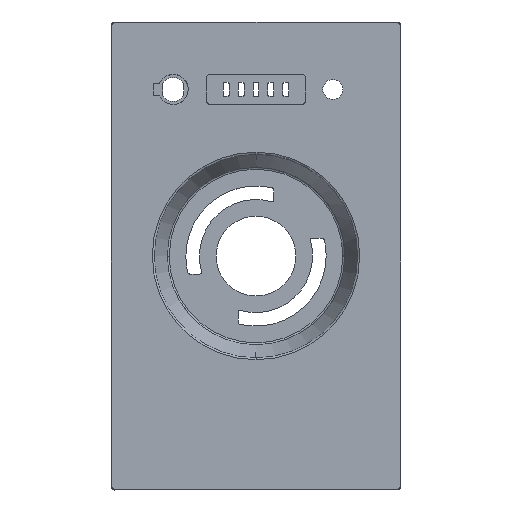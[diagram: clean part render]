
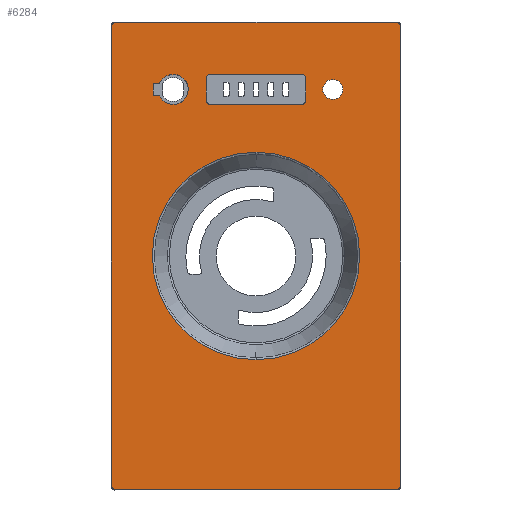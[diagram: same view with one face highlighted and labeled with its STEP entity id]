
A CAD part, top view. The second image highlights one B-rep face of the part: STEP entity #6284.
In plain terms, the highlighted planar face has unit normal (0, 0, 1).
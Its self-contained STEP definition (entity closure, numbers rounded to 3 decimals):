
#1=CARTESIAN_POINT('',(-70.85,-115.5,98.));
#2=DIRECTION('',(0.,0.,-1.));
#3=DIRECTION('',(0.,-1.,0.));
#4=AXIS2_PLACEMENT_3D('',#1,#2,#3);
#6=CARTESIAN_POINT('',(-70.85,115.5,98.));
#7=DIRECTION('',(0.,0.,-1.));
#8=DIRECTION('',(-1.,0.,0.));
#9=AXIS2_PLACEMENT_3D('',#6,#7,#8);
#11=CARTESIAN_POINT('',(70.85,115.5,98.));
#12=DIRECTION('',(0.,0.,-1.));
#13=DIRECTION('',(0.,1.,0.));
#14=AXIS2_PLACEMENT_3D('',#11,#12,#13);
#16=CARTESIAN_POINT('',(70.85,-115.5,98.));
#17=DIRECTION('',(0.,0.,-1.));
#18=DIRECTION('',(1.,0.,0.));
#19=AXIS2_PLACEMENT_3D('',#16,#17,#18);
#21=DIRECTION('',(1.,0.,0.));
#22=VECTOR('',#21,46.);
#23=CARTESIAN_POINT('',(-23.,76.,98.));
#24=LINE('',#23,#22);
#25=CARTESIAN_POINT('',(23.,78.,98.));
#26=DIRECTION('',(0.,0.,1.));
#27=DIRECTION('',(0.,-1.,0.));
#28=AXIS2_PLACEMENT_3D('',#25,#26,#27);
#30=DIRECTION('',(0.,1.,0.));
#31=VECTOR('',#30,11.);
#32=CARTESIAN_POINT('',(25.,78.,98.));
#33=LINE('',#32,#31);
#34=CARTESIAN_POINT('',(23.,89.,98.));
#35=DIRECTION('',(0.,0.,1.));
#36=DIRECTION('',(1.,0.,0.));
#37=AXIS2_PLACEMENT_3D('',#34,#35,#36);
#39=DIRECTION('',(-1.,0.,0.));
#40=VECTOR('',#39,46.);
#41=CARTESIAN_POINT('',(23.,91.,98.));
#42=LINE('',#41,#40);
#43=CARTESIAN_POINT('',(-23.,89.,98.));
#44=DIRECTION('',(0.,0.,1.));
#45=DIRECTION('',(0.,1.,0.));
#46=AXIS2_PLACEMENT_3D('',#43,#44,#45);
#48=DIRECTION('',(0.,-1.,0.));
#49=VECTOR('',#48,11.);
#50=CARTESIAN_POINT('',(-25.,89.,98.));
#51=LINE('',#50,#49);
#52=CARTESIAN_POINT('',(-23.,78.,98.));
#53=DIRECTION('',(0.,0.,1.));
#54=DIRECTION('',(-1.,0.,0.));
#55=AXIS2_PLACEMENT_3D('',#52,#53,#54);
#57=CARTESIAN_POINT('',(38.5,83.5,98.));
#58=DIRECTION('',(0.,0.,1.));
#59=DIRECTION('',(1.,0.,0.));
#60=AXIS2_PLACEMENT_3D('',#57,#58,#59);
#62=CARTESIAN_POINT('',(38.5,83.5,98.));
#63=DIRECTION('',(0.,0.,1.));
#64=DIRECTION('',(-1.,0.,0.));
#65=AXIS2_PLACEMENT_3D('',#62,#63,#64);
#67=CARTESIAN_POINT('',(-48.694,87.,98.));
#68=DIRECTION('',(0.,0.,-1.));
#69=DIRECTION('',(0.899,-0.437,0.));
#70=AXIS2_PLACEMENT_3D('',#67,#68,#69);
#72=DIRECTION('',(-1.,0.,0.));
#73=VECTOR('',#72,2.306);
#74=CARTESIAN_POINT('',(-48.694,86.5,98.));
#75=LINE('',#74,#73);
#76=CARTESIAN_POINT('',(-51.,86.,98.));
#77=DIRECTION('',(0.,0.,1.));
#78=DIRECTION('',(0.,1.,0.));
#79=AXIS2_PLACEMENT_3D('',#76,#77,#78);
#81=DIRECTION('',(0.,-1.,0.));
#82=VECTOR('',#81,5.);
#83=CARTESIAN_POINT('',(-51.5,86.,98.));
#84=LINE('',#83,#82);
#85=CARTESIAN_POINT('',(-51.,81.,98.));
#86=DIRECTION('',(0.,0.,1.));
#87=DIRECTION('',(-1.,0.,0.));
#88=AXIS2_PLACEMENT_3D('',#85,#86,#87);
#90=DIRECTION('',(1.,0.,0.));
#91=VECTOR('',#90,2.306);
#92=CARTESIAN_POINT('',(-51.,80.5,98.));
#93=LINE('',#92,#91);
#94=CARTESIAN_POINT('',(-48.694,80.,98.));
#95=DIRECTION('',(0.,0.,-1.));
#96=DIRECTION('',(0.,1.,0.));
#97=AXIS2_PLACEMENT_3D('',#94,#95,#96);
#99=CARTESIAN_POINT('',(-41.5,83.5,98.));
#100=DIRECTION('',(0.,0.,1.));
#101=DIRECTION('',(-0.899,-0.438,0.));
#102=AXIS2_PLACEMENT_3D('',#99,#100,#101);
#104=CARTESIAN_POINT('',(-41.5,83.5,98.));
#105=DIRECTION('',(0.,0.,1.));
#106=DIRECTION('',(1.,0.,0.));
#107=AXIS2_PLACEMENT_3D('',#104,#105,#106);
#109=CARTESIAN_POINT('',(-41.5,83.5,98.));
#110=DIRECTION('',(0.,0.,1.));
#111=DIRECTION('',(0.899,0.438,0.));
#112=AXIS2_PLACEMENT_3D('',#109,#110,#111);
#114=CARTESIAN_POINT('',(0.,0.,98.));
#115=DIRECTION('',(0.,0.,1.));
#116=DIRECTION('',(0.,1.,0.));
#117=AXIS2_PLACEMENT_3D('',#114,#115,#116);
#119=CARTESIAN_POINT('',(0.,0.,98.));
#120=DIRECTION('',(0.,0.,1.));
#121=DIRECTION('',(0.,-1.,0.));
#122=AXIS2_PLACEMENT_3D('',#119,#120,#121);
#124=DIRECTION('',(1.,0.,0.));
#125=VECTOR('',#124,141.7);
#126=CARTESIAN_POINT('',(-70.85,-116.95,98.));
#127=LINE('',#126,#125);
#147=DIRECTION('',(0.,1.,0.));
#148=VECTOR('',#147,231.);
#149=CARTESIAN_POINT('',(72.3,-115.5,98.));
#150=LINE('',#149,#148);
#170=DIRECTION('',(-1.,0.,0.));
#171=VECTOR('',#170,141.7);
#172=CARTESIAN_POINT('',(70.85,116.95,98.));
#173=LINE('',#172,#171);
#193=DIRECTION('',(0.,-1.,0.));
#194=VECTOR('',#193,231.);
#195=CARTESIAN_POINT('',(-72.3,115.5,98.));
#196=LINE('',#195,#194);
#4768=CARTESIAN_POINT('',(-70.85,-116.95,98.));
#4769=CARTESIAN_POINT('',(70.85,-116.95,98.));
#4770=VERTEX_POINT('',#4768);
#4771=VERTEX_POINT('',#4769);
#4772=CARTESIAN_POINT('',(-72.3,-115.5,98.));
#4773=VERTEX_POINT('',#4772);
#4774=CARTESIAN_POINT('',(-72.3,115.5,98.));
#4775=VERTEX_POINT('',#4774);
#4776=CARTESIAN_POINT('',(-70.85,116.95,98.));
#4777=VERTEX_POINT('',#4776);
#4778=CARTESIAN_POINT('',(70.85,116.95,98.));
#4779=VERTEX_POINT('',#4778);
#4780=CARTESIAN_POINT('',(72.3,115.5,98.));
#4781=VERTEX_POINT('',#4780);
#4782=CARTESIAN_POINT('',(72.3,-115.5,98.));
#4783=VERTEX_POINT('',#4782);
#4784=CARTESIAN_POINT('',(-23.,76.,98.));
#4785=CARTESIAN_POINT('',(23.,76.,98.));
#4786=VERTEX_POINT('',#4784);
#4787=VERTEX_POINT('',#4785);
#4788=CARTESIAN_POINT('',(25.,78.,98.));
#4789=VERTEX_POINT('',#4788);
#4790=CARTESIAN_POINT('',(25.,89.,98.));
#4791=VERTEX_POINT('',#4790);
#4792=CARTESIAN_POINT('',(23.,91.,98.));
#4793=VERTEX_POINT('',#4792);
#4794=CARTESIAN_POINT('',(-23.,91.,98.));
#4795=VERTEX_POINT('',#4794);
#4796=CARTESIAN_POINT('',(-25.,89.,98.));
#4797=VERTEX_POINT('',#4796);
#4798=CARTESIAN_POINT('',(-25.,78.,98.));
#4799=VERTEX_POINT('',#4798);
#4800=CARTESIAN_POINT('',(43.5,83.5,98.));
#4801=CARTESIAN_POINT('',(33.5,83.5,98.));
#4802=VERTEX_POINT('',#4800);
#4803=VERTEX_POINT('',#4801);
#4804=CARTESIAN_POINT('',(-48.244,86.781,98.));
#4805=CARTESIAN_POINT('',(-48.694,86.5,98.));
#4806=VERTEX_POINT('',#4804);
#4807=VERTEX_POINT('',#4805);
#4808=CARTESIAN_POINT('',(-51.,86.5,98.));
#4809=VERTEX_POINT('',#4808);
#4810=CARTESIAN_POINT('',(-51.5,86.,98.));
#4811=VERTEX_POINT('',#4810);
#4812=CARTESIAN_POINT('',(-51.5,81.,98.));
#4813=VERTEX_POINT('',#4812);
#4814=CARTESIAN_POINT('',(-51.,80.5,98.));
#4815=VERTEX_POINT('',#4814);
#4816=CARTESIAN_POINT('',(-48.694,80.5,98.));
#4817=VERTEX_POINT('',#4816);
#4818=CARTESIAN_POINT('',(-48.244,80.219,98.));
#4819=VERTEX_POINT('',#4818);
#4820=CARTESIAN_POINT('',(-34.,83.5,98.));
#4821=VERTEX_POINT('',#4820);
#4822=CARTESIAN_POINT('',(-34.756,86.781,98.));
#4823=VERTEX_POINT('',#4822);
#4824=CARTESIAN_POINT('',(0.,51.985,98.));
#4825=CARTESIAN_POINT('',(0.,-51.985,98.));
#4826=VERTEX_POINT('',#4824);
#4827=VERTEX_POINT('',#4825);
#6209=CARTESIAN_POINT('',(0.,0.,98.));
#6210=DIRECTION('',(0.,0.,1.));
#6211=DIRECTION('',(1.,0.,0.));
#6212=AXIS2_PLACEMENT_3D('',#6209,#6210,#6211);
#6213=PLANE('',#6212);
#6215=ORIENTED_EDGE('',*,*,#6214,.F.);
#6217=ORIENTED_EDGE('',*,*,#6216,.T.);
#6219=ORIENTED_EDGE('',*,*,#6218,.F.);
#6221=ORIENTED_EDGE('',*,*,#6220,.T.);
#6223=ORIENTED_EDGE('',*,*,#6222,.F.);
#6225=ORIENTED_EDGE('',*,*,#6224,.T.);
#6227=ORIENTED_EDGE('',*,*,#6226,.F.);
#6229=ORIENTED_EDGE('',*,*,#6228,.T.);
#6230=EDGE_LOOP('',(#6215,#6217,#6219,#6221,#6223,#6225,#6227,#6229));
#6231=FACE_OUTER_BOUND('',#6230,.F.);
#6233=ORIENTED_EDGE('',*,*,#6232,.T.);
#6235=ORIENTED_EDGE('',*,*,#6234,.T.);
#6237=ORIENTED_EDGE('',*,*,#6236,.T.);
#6239=ORIENTED_EDGE('',*,*,#6238,.T.);
#6241=ORIENTED_EDGE('',*,*,#6240,.T.);
#6243=ORIENTED_EDGE('',*,*,#6242,.T.);
#6245=ORIENTED_EDGE('',*,*,#6244,.T.);
#6247=ORIENTED_EDGE('',*,*,#6246,.T.);
#6248=EDGE_LOOP('',(#6233,#6235,#6237,#6239,#6241,#6243,#6245,#6247));
#6249=FACE_BOUND('',#6248,.F.);
#6251=ORIENTED_EDGE('',*,*,#6250,.T.);
#6253=ORIENTED_EDGE('',*,*,#6252,.T.);
#6254=EDGE_LOOP('',(#6251,#6253));
#6255=FACE_BOUND('',#6254,.F.);
#6257=ORIENTED_EDGE('',*,*,#6256,.T.);
#6259=ORIENTED_EDGE('',*,*,#6258,.T.);
#6261=ORIENTED_EDGE('',*,*,#6260,.T.);
#6263=ORIENTED_EDGE('',*,*,#6262,.T.);
#6265=ORIENTED_EDGE('',*,*,#6264,.T.);
#6267=ORIENTED_EDGE('',*,*,#6266,.T.);
#6269=ORIENTED_EDGE('',*,*,#6268,.T.);
#6271=ORIENTED_EDGE('',*,*,#6270,.T.);
#6273=ORIENTED_EDGE('',*,*,#6272,.T.);
#6275=ORIENTED_EDGE('',*,*,#6274,.T.);
#6276=EDGE_LOOP('',(#6257,#6259,#6261,#6263,#6265,#6267,#6269,#6271,#6273,
#6275));
#6277=FACE_BOUND('',#6276,.F.);
#6279=ORIENTED_EDGE('',*,*,#6278,.T.);
#6281=ORIENTED_EDGE('',*,*,#6280,.T.);
#6282=EDGE_LOOP('',(#6279,#6281));
#6283=FACE_BOUND('',#6282,.F.);
#6284=ADVANCED_FACE('',(#6231,#6249,#6255,#6277,#6283),#6213,.T.);
#5=CIRCLE('',#4,1.45);
#10=CIRCLE('',#9,1.45);
#15=CIRCLE('',#14,1.45);
#20=CIRCLE('',#19,1.45);
#29=CIRCLE('',#28,2.);
#38=CIRCLE('',#37,2.);
#47=CIRCLE('',#46,2.);
#56=CIRCLE('',#55,2.);
#61=CIRCLE('',#60,5.);
#66=CIRCLE('',#65,5.);
#71=CIRCLE('',#70,0.5);
#80=CIRCLE('',#79,0.5);
#89=CIRCLE('',#88,0.5);
#98=CIRCLE('',#97,0.5);
#103=CIRCLE('',#102,7.5);
#108=CIRCLE('',#107,7.5);
#113=CIRCLE('',#112,7.5);
#118=CIRCLE('',#117,51.985);
#123=CIRCLE('',#122,51.985);
#6214=EDGE_CURVE('',#4770,#4771,#127,.T.);
#6216=EDGE_CURVE('',#4770,#4773,#5,.T.);
#6218=EDGE_CURVE('',#4775,#4773,#196,.T.);
#6220=EDGE_CURVE('',#4775,#4777,#10,.T.);
#6222=EDGE_CURVE('',#4779,#4777,#173,.T.);
#6224=EDGE_CURVE('',#4779,#4781,#15,.T.);
#6226=EDGE_CURVE('',#4783,#4781,#150,.T.);
#6228=EDGE_CURVE('',#4783,#4771,#20,.T.);
#6232=EDGE_CURVE('',#4786,#4787,#24,.T.);
#6234=EDGE_CURVE('',#4787,#4789,#29,.T.);
#6236=EDGE_CURVE('',#4789,#4791,#33,.T.);
#6238=EDGE_CURVE('',#4791,#4793,#38,.T.);
#6240=EDGE_CURVE('',#4793,#4795,#42,.T.);
#6242=EDGE_CURVE('',#4795,#4797,#47,.T.);
#6244=EDGE_CURVE('',#4797,#4799,#51,.T.);
#6246=EDGE_CURVE('',#4799,#4786,#56,.T.);
#6250=EDGE_CURVE('',#4802,#4803,#61,.T.);
#6252=EDGE_CURVE('',#4803,#4802,#66,.T.);
#6256=EDGE_CURVE('',#4806,#4807,#71,.T.);
#6258=EDGE_CURVE('',#4807,#4809,#75,.T.);
#6260=EDGE_CURVE('',#4809,#4811,#80,.T.);
#6262=EDGE_CURVE('',#4811,#4813,#84,.T.);
#6264=EDGE_CURVE('',#4813,#4815,#89,.T.);
#6266=EDGE_CURVE('',#4815,#4817,#93,.T.);
#6268=EDGE_CURVE('',#4817,#4819,#98,.T.);
#6270=EDGE_CURVE('',#4819,#4821,#103,.T.);
#6272=EDGE_CURVE('',#4821,#4823,#108,.T.);
#6274=EDGE_CURVE('',#4823,#4806,#113,.T.);
#6278=EDGE_CURVE('',#4826,#4827,#118,.T.);
#6280=EDGE_CURVE('',#4827,#4826,#123,.T.);
